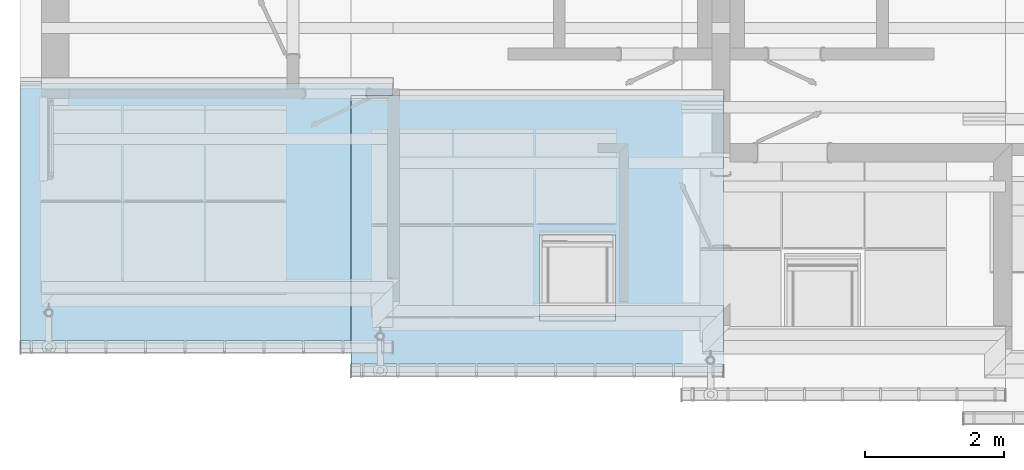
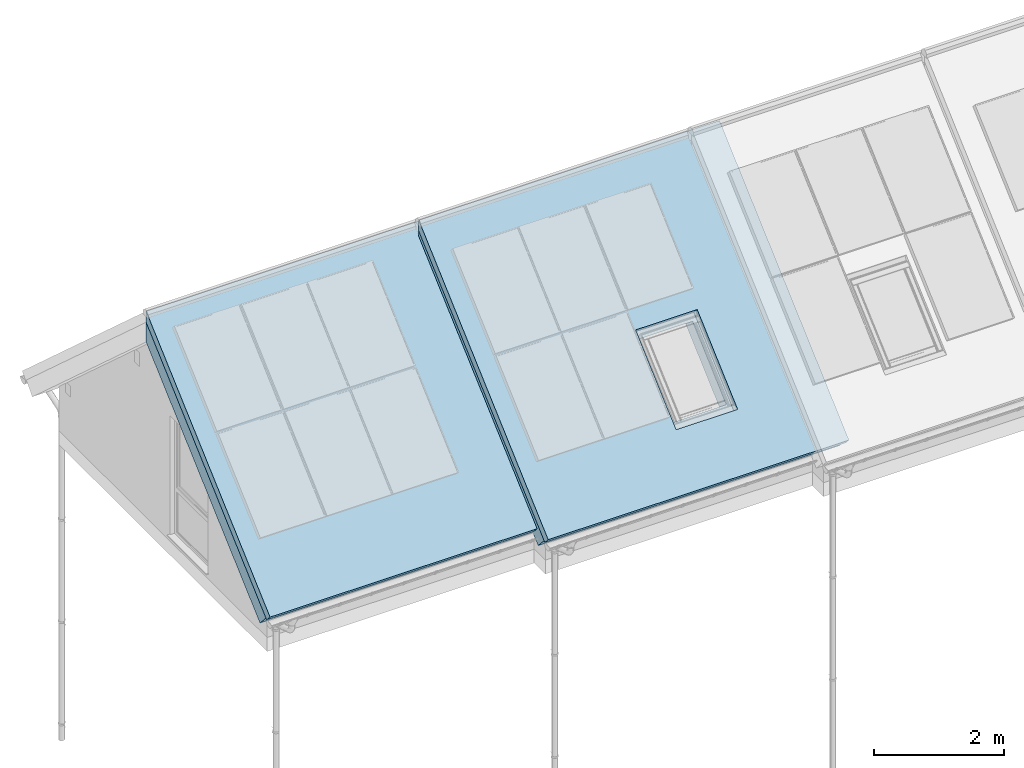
# One storey, part 1 of 43: 4 slabs, 2 openings, 2 elements without a shape of their own.
"""IFC2X3 building model written with IfcOpenShell, lengths in millimetres."""

from ifc_helpers import new_model, si_unit, frame, origin_with_axes, place, context, project, spatial, faceted_brep, element, aggregate, save


model = new_model("IFC2X3")

# Units and contexts
model_context = context("Model", 3, world=origin_with_axes())
ifc_project = project(units=[si_unit("LENGTHUNIT", "METRE", prefix="MILLI")], contexts=[model_context])

# Site, building, storey
site_placement = place(None, origin_with_axes())
site = spatial("IfcSite", under=ifc_project, at=site_placement, Name="Site", CompositionType="ELEMENT")
building_placement = place(site_placement, origin_with_axes())
building = spatial("IfcBuilding", under=site, at=building_placement, Name="?", CompositionType="ELEMENT")
storey_placement = place(building_placement, frame((0.0, 0.0, 5938.0), z_axis=(0.0, 0.0, 1.0), x_axis=(1.0, 0.0, 0.0)))
storey = spatial("IfcBuildingStorey", under=building, at=storey_placement, Name="Dachgeschoß", CompositionType="ELEMENT", Elevation=5938.0)

# Roof, slabs, openings
roof_1_placement = place(None, origin_with_axes())
roof_1 = element("IfcRoof", 1, at=roof_1_placement, inside=storey, Name="Dach03", ShapeType="NOTDEFINED")
slab_1_placement = place(roof_1_placement, frame((4750.0, -6756.0, 6767.55029296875), z_axis=(0.0, -0.669130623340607, 0.743144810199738), x_axis=(1.00000000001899, 0.0, 0.0)))
slab_1 = element("IfcSlab", 2, at=slab_1_placement, Name="DAFL_Rafter", PredefinedType="ROOF", context=model_context, shape_type="Brep", body=[
    faceted_brep([(5049.99426160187, 4545.54741394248, -4.45530476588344e-05), (-299.999990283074, 4545.54741394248, -4.45530476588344e-05), (-300.000049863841, 4793.15841274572, 274.999816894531), (5049.99411860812, 4793.15841274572, 274.999816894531), (5049.9999779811, -403.689727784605, -0.000263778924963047), (5049.99426160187, 4545.54741394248, -4.45530476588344e-05), (5049.99411860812, 4793.15841274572, 274.999816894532), (5050.000120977, -403.688265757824, 274.999816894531), (-299.997608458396, -403.689727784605, -0.000263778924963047), (5049.9999779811, -403.689727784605, -0.000263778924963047), (5050.000120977, -403.688265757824, 274.999816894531), (-299.997548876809, -403.688265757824, 274.999816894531), (-299.999990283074, 4545.54741394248, -4.45530476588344e-05), (-299.997608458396, -403.689727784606, -0.000263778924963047), (-299.997548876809, -403.688265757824, 274.999816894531), (-300.000049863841, 4793.15841274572, 274.999816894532), (5049.99411860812, 4793.15841274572, 274.999816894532), (-300.000049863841, 4793.15841274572, 274.999816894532), (-299.997548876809, -403.688265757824, 274.999816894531), (5050.000120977, -403.688265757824, 274.999816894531), (5049.99426160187, 4545.54741394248, -4.45530476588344e-05), (5049.9999779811, -403.689727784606, -0.000263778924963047), (-299.997608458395, -403.689727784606, -0.000263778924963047), (-299.999990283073, 4545.54741394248, -4.45530476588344e-05)], [[[0, 1, 2, 3]], [[4, 5, 6, 7]], [[8, 9, 10, 11]], [[12, 13, 14, 15]], [[16, 17, 18, 19]], [[20, 21, 22, 23]]]),
])
opening_1_placement = place(slab_1_placement, frame((2481.99999995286, 2116.30548572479, 275.000101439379), z_axis=(0.0, -1.00000003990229, -4.42948824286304e-08), x_axis=(1.00000000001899, 0.0, 0.0)))
element("IfcOpeningElement", 3, at=opening_1_placement, cuts=slab_1, Name="DAFL_Rafter|DF08", context=model_context, shape_type="Brep", body=[
    faceted_brep([(940.0, -285.000471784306, -316.529426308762), (940.0, -285.000395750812, 1400.00055361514), (0.0, -285.000395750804, 1400.00073505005), (0.0, -285.000471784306, -316.529426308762), (940.0, -285.000471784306, -316.529426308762), (0.0, -285.000471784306, -316.529426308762), (0.0, 9.99954558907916, 11.1012406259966), (940.0, 9.99954558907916, 11.1012406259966), (940.0, -285.000395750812, 1400.00055361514), (940.0, -285.000471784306, -316.529426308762), (940.0, 9.99954558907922, 11.1012406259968), (940.0, 9.99960710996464, 1399.99499134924), (0.0, -285.000395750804, 1400.00073505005), (940.0, -285.000395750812, 1400.00055361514), (940.0, 9.99960710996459, 1399.99499134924), (0.0, 9.99960710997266, 1399.99517278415), (0.0, -285.000471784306, -316.529426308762), (0.0, -285.000395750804, 1400.00073505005), (0.0, 9.99960710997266, 1399.99517278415), (0.0, 9.99954558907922, 11.1012406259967), (940.0, 9.99954558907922, 11.1012406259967), (0.0, 9.99954558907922, 11.1012406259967), (0.0, 9.99960710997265, 1399.99517278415), (940.0, 9.99960710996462, 1399.99499134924)], [[[0, 1, 2, 3]], [[4, 5, 6, 7]], [[8, 9, 10, 11]], [[12, 13, 14, 15]], [[16, 17, 18, 19]], [[20, 21, 22, 23]]]),
])
slab_2_placement = place(roof_1_placement, frame((4750.0, -6756.0, 6767.55029296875), z_axis=(0.0, -0.669130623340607, 0.743144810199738), x_axis=(1.00000000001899, 0.0, 0.0)))
slab_2 = element("IfcSlab", 4, at=slab_2_placement, Name="DAFL_Tile", PredefinedType="ROOF", context=model_context, shape_type="Brep", body=[
    faceted_brep([(5050.00172181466, 4793.15841274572, 274.999816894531), (-299.999987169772, 4793.15841274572, 274.999816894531), (-299.999961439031, 4932.7211725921, 429.999957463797), (5050.00174754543, 4932.7211725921, 429.999957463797), (5049.99979442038, -433.696178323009, 274.999816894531), (5050.00172181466, 4793.15841274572, 274.999816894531), (5050.00174754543, 4932.7211725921, 429.999957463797), (5049.99976869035, -433.688943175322, 429.999505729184), (-300.001914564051, -433.696178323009, 274.999816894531), (5049.99979442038, -433.696178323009, 274.999816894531), (5049.99976869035, -433.688943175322, 429.999505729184), (-300.001940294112, -433.688943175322, 429.999505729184), (-299.999987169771, 4793.15841274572, 274.999816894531), (-300.001914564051, -433.696178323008, 274.999816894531), (-300.001940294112, -433.688943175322, 429.999505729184), (-299.99996143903, 4932.7211725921, 429.999957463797), (5050.00174754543, 4932.7211725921, 429.999957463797), (-299.999961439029, 4932.7211725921, 429.999957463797), (-300.001940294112, -433.688943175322, 429.999505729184), (5049.99976869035, -433.688943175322, 429.999505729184), (5050.00172181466, 4793.15841274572, 274.999816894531), (5049.99979442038, -433.696178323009, 274.999816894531), (-300.001914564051, -433.696178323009, 274.999816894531), (-299.999987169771, 4793.15841274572, 274.999816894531)], [[[0, 1, 2, 3]], [[4, 5, 6, 7]], [[8, 9, 10, 11]], [[12, 13, 14, 15]], [[16, 17, 18, 19]], [[20, 21, 22, 23]]]),
])
opening_2_placement = place(slab_2_placement, frame((2481.99999995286, 2116.30548572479, 275.000101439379), z_axis=(0.0, -1.00000003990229, -4.42948824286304e-08), x_axis=(1.00000000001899, 0.0, 0.0)))
element("IfcOpeningElement", 5, at=opening_2_placement, cuts=slab_2, Name="DAFL_Tile|DF08", context=model_context, shape_type="Brep", body=[
    faceted_brep([(1016.99851832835, -9.99948396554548, -126.99879193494), (1016.99998316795, -9.99940972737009, 1549.00013447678), (-77.0000000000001, -9.99940972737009, 1549.00013447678), (-77.0000000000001, -9.99948396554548, -126.99879193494), (1016.99851832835, -9.99948396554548, -126.99879193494), (-77.0000000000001, -9.99948396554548, -126.99879193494), (-77.0000000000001, 164.999536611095, -126.9950992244), (1016.99900660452, 164.999536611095, -126.9950992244), (1016.99998316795, -9.99940972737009, 1549.00013447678), (1016.99851832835, -9.99948396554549, -126.99879193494), (1016.99900660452, 164.999536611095, -126.995099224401), (1017.00047144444, 164.999610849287, 1549.00419004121), (-77.0, -9.99940972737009, 1549.00013447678), (1016.99998316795, -9.99940972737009, 1549.00013447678), (1017.00047144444, 164.999610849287, 1549.00419004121), (-77.0, 164.999610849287, 1549.00419004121), (-77.0, -9.99948396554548, -126.99879193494), (-77.0, -9.99940972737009, 1549.00013447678), (-77.0, 164.999610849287, 1549.00419004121), (-77.0, 164.999536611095, -126.9950992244), (1016.99900660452, 164.999536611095, -126.9950992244), (-77.0000000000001, 164.999536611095, -126.9950992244), (-76.9999999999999, 164.999610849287, 1549.00419004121), (1017.00047144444, 164.999610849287, 1549.00419004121)], [[[0, 1, 2, 3]], [[4, 5, 6, 7]], [[8, 9, 10, 11]], [[12, 13, 14, 15]], [[16, 17, 18, 19]], [[20, 21, 22, 23]]]),
])
aggregate(roof_1, [slab_1, slab_2])

# Roof, slabs
roof_2_placement = place(None, origin_with_axes())
roof_2 = element("IfcRoof", 6, at=roof_2_placement, inside=storey, Name="Dach04", ShapeType="NOTDEFINED")
slab_3_placement = place(roof_2_placement, frame((0.0, -6415.0, 6767.55029296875), z_axis=(0.0, -0.669130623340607, 0.743144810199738), x_axis=(1.00000000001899, 0.0, 0.0)))
slab_3 = element("IfcSlab", 7, at=slab_3_placement, Name="DAFL_Rafter", PredefinedType="ROOF", context=model_context, shape_type="Brep", body=[
    faceted_brep([(5049.99956489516, 4316.11680910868, -0.000516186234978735), (-300.000000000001, 4316.11680910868, -0.000516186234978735), (-300.000000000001, 4563.7281482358, 275.000073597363), (5049.99955241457, 4563.7281482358, 275.000073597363), (5050.0000406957, -403.690063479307, -0.000516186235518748), (5049.99956489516, 4316.11680910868, -0.000516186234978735), (5049.99955241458, 4563.7281482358, 275.000073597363), (5050.00005317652, -403.688601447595, 275.000491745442), (-300.0, -403.690063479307, -0.000516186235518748), (5050.0000406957, -403.690063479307, -0.000516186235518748), (5050.00005317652, -403.688601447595, 275.000491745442), (-300.0, -403.688601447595, 275.000491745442), (-300.0, 4316.11680910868, -0.000516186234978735), (-300.0, -403.690063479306, -0.000516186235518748), (-300.0, -403.688601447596, 275.000491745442), (-300.0, 4563.7281482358, 275.000073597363), (5049.99955241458, 4563.7281482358, 275.000073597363), (-300.0, 4563.7281482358, 275.000073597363), (-300.0, -403.688601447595, 275.000491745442), (5050.00005317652, -403.688601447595, 275.000491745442), (5049.99956489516, 4316.11680910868, -0.000516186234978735), (5050.0000406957, -403.690063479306, -0.000516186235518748), (-300.0, -403.690063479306, -0.000516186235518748), (-300.0, 4316.11680910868, -0.000516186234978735)], [[[0, 1, 2, 3]], [[4, 5, 6, 7]], [[8, 9, 10, 11]], [[12, 13, 14, 15]], [[16, 17, 18, 19]], [[20, 21, 22, 23]]]),
])
slab_4_placement = place(roof_2_placement, frame((0.0, -6415.0, 6767.55029296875), z_axis=(0.0, -0.669130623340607, 0.743144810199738), x_axis=(1.00000000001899, 0.0, 0.0)))
slab_4 = element("IfcSlab", 8, at=slab_4_placement, Name="DAFL_Tile", PredefinedType="ROOF", context=model_context, shape_type="Brep", body=[
    faceted_brep([(5049.99871649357, 4563.7284257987, 275.000073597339), (-300.0, 4563.7284257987, 275.000073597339), (-300.0, 4703.29082567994, 430.000183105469), (5049.99869632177, 4703.29082567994, 430.000183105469), (5050.00016116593, -433.696495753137, 275.000494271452), (5049.99871649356, 4563.7284257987, 275.000073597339), (5049.99869632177, 4703.29082567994, 430.000183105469), (5050.00018133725, -433.689594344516, 430.000183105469), (-300.0, -433.696495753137, 275.000494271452), (5050.00016116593, -433.696495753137, 275.000494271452), (5050.00018133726, -433.689594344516, 430.000183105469), (-300.0, -433.689594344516, 430.000183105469), (-300.0, 4563.7284257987, 275.000073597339), (-300.0, -433.696495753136, 275.000494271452), (-300.0, -433.689594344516, 430.000183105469), (-300.0, 4703.29082567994, 430.000183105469), (5049.99869632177, 4703.29082567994, 430.000183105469), (-300.0, 4703.29082567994, 430.000183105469), (-300.0, -433.689594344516, 430.000183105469), (5050.00018133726, -433.689594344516, 430.000183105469), (5049.99871649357, 4563.7284257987, 275.000073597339), (5050.00016116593, -433.696495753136, 275.000494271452), (-300.0, -433.696495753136, 275.000494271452), (-300.0, 4563.7284257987, 275.000073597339)], [[[0, 1, 2, 3]], [[4, 5, 6, 7]], [[8, 9, 10, 11]], [[12, 13, 14, 15]], [[16, 17, 18, 19]], [[20, 21, 22, 23]]]),
])
aggregate(roof_2, [slab_3, slab_4])

save(model, "model.ifc")
